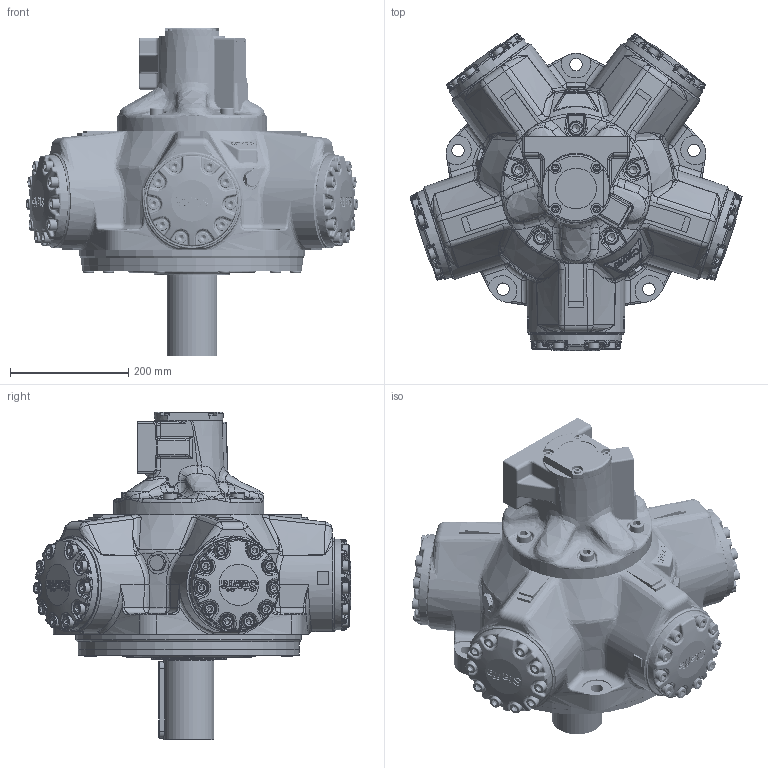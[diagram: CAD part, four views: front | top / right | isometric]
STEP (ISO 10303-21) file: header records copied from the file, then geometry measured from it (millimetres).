
FILE_DESCRIPTION(/* description */ (''),/* implementation_level */ '2;1');
FILE_NAME(/* name */ 'HMB125_P1_SFM3_70.stp',/* time_stamp */ '2025-12-18T13:32:25Z',/* author */ ('ccallanga'),/* organization */ (''),/* preprocessor_version */ 'ST-DEVELOPER v20',/* originating_system */ 'Autodesk Inventor 2024',/* authorisation */ '');
FILE_SCHEMA (('AUTOMOTIVE_DESIGN { 1 0 10303 214 3 1 1 }'));
Length unit declared in the file: millimetre
Products named in the file (1): HMB125 Web Assembly_Simplify_1
Bounding box: 560.55 x 535.61 x 553.77 mm (x, y, z)
Volume: 38619025.9 mm3; surface area: 1071728.4 mm2
Topology: 1 solids, 1 shells, 4763 faces, 11531 edges, 6797 vertices
Faces by surface type: bspline 1870, plane 1257, cylinder 957, torus 406, cone 148, sphere 125
Full cylindrical faces by diameter (mm): 2.2 x4, 9.4 x1, 10.25 x8, 11.328 x2, 11.913 x4, 12 x1, 12.7 x4, 15.875 x5, 16.3 x5, 16.51 x1, 17.323 x1, 19.05 x60, 20.637 x60, 21 x5, 23.825 x5, 25.4 x5, 26.92 x2, 32 x2, 38.1 x3, 68.58 x1, 85.001 x1, 88.837 x1, 92.964 x1, 127 x1, 158.75 x5, 254 x1, 373.255 x1, 373.596 x1, 380.911 x1
Entity records: 217959 total; most frequent: CARTESIAN_POINT 116333, ORIENTED_EDGE 22576, DIRECTION 16019, EDGE_CURVE 11288, VERTEX_POINT 6797, AXIS2_PLACEMENT_3D 6284, EDGE_LOOP 5045, STYLED_ITEM 4764
